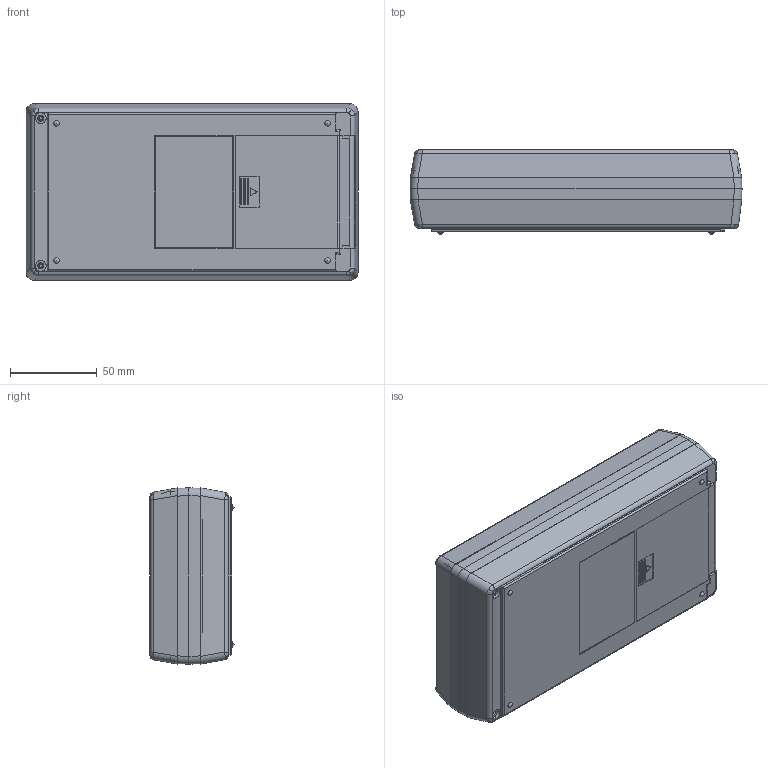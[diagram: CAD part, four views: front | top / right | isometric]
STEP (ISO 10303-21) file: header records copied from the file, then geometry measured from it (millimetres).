
FILE_DESCRIPTION (( 'STEP AP214' ), '1' );
FILE_NAME ('101-42-2C-E-R.STEP', '2019-12-01T00:55:27', ( 'Rudy' ), ( '' ), 'SwSTEP 2.0', 'SolidWorks 2014', '' );
FILE_SCHEMA (( 'AUTOMOTIVE_DESIGN' ));
Length unit declared in the file: millimetre
Products named in the file (5): 2Cdoor; 100-06 EXPANDER; 100-04-LCD Top; 100-02 BOT-2C; 101-42-2C-E-R
Assembly tree (4 placements, depth 2):
  101-42-2C-E-R
    100-02 BOT-2C
    100-04-LCD Top
    100-06 EXPANDER
    2Cdoor
Bounding box: 191 x 48.36 x 101.4 mm (x, y, z)
Volume: 141866.6 mm3; surface area: 158403 mm2
Topology: 4 solids, 4 shells, 894 faces, 2363 edges, 1479 vertices
Faces by surface type: plane 509, cylinder 287, bspline 40, cone 38, torus 12, sphere 8
Entity records: 28791 total; most frequent: CARTESIAN_POINT 7432, ORIENTED_EDGE 4646, DIRECTION 4100, EDGE_CURVE 2323, VECTOR 1558, LINE 1558, VERTEX_POINT 1471, AXIS2_PLACEMENT_3D 1271
